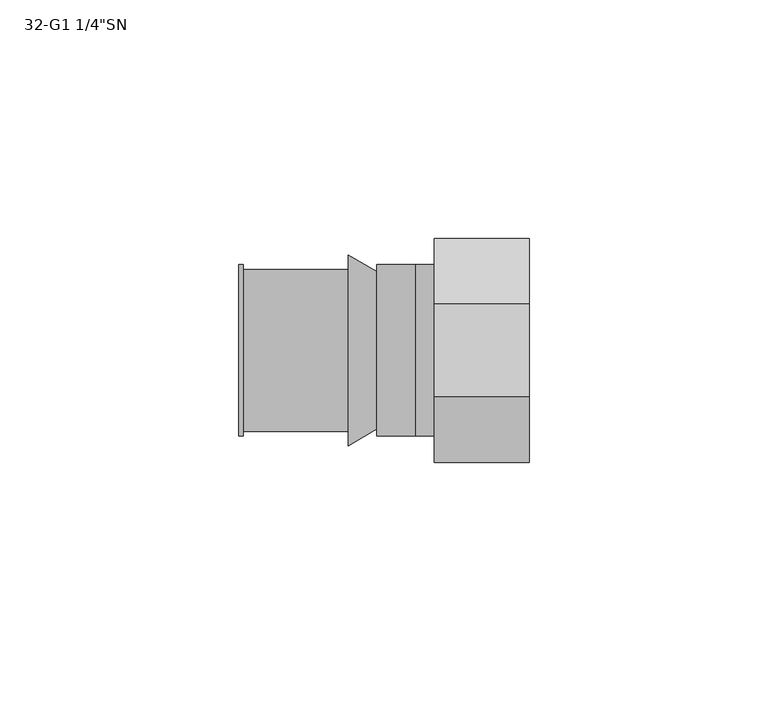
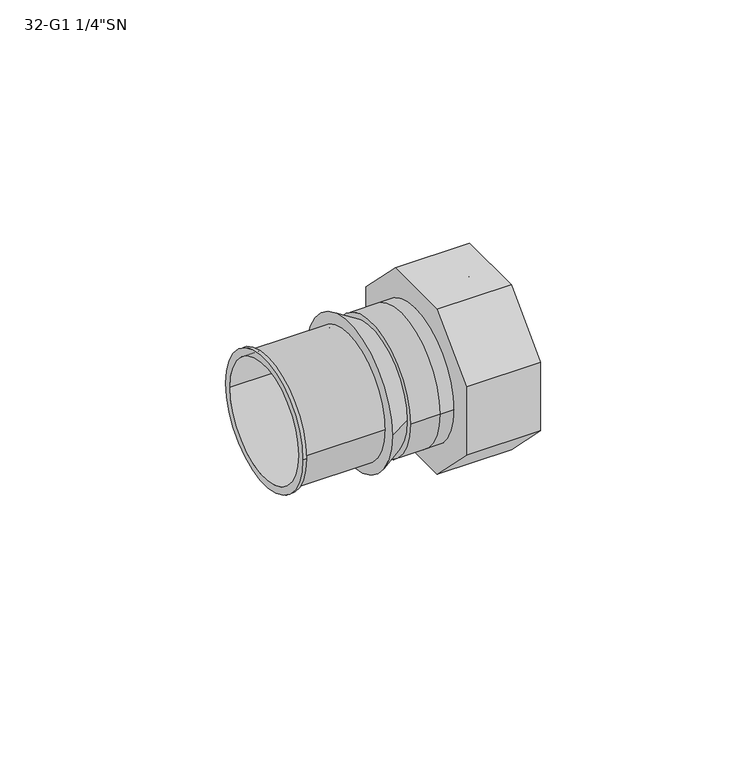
"""IFC4 building model written with IfcOpenShell, lengths in millimetres: pipe fitting geometry."""

from ifc_helpers import new_model, si_unit, frame, origin, place, context, project, spatial, polyline, circle_curve, source, transform, mapped, element, save
from ifc_brep_helpers import plane_surface, cylinder_surface, revolved_surface, advanced_brep


def pipe_fitting_c0130a99(model_context):
    return source(origin(), model_context, "Body", "AdvancedBrep", [
        advanced_brep(
        [(-4.0, -16.5, 0.0), (-4.0, 16.5, 0.0), (-4.0, -16.0, 0.0), (-4.0, 16.0, 0.0), (-10.0, -20.0, 0.0), (-10.0, 20.0, 0.0), (-10.0, 16.0, 0.0), (-10.0, -16.0, 0.0)],
        [
            (0, 1, circle_curve(frame((-4.0, 0.0, 0.0), z_axis=(1.0, 0.0, 0.0), x_axis=(0.0, -1.0, 0.0)), 16.5)),
            (1, 0, circle_curve(frame((-4.0, 0.0, 0.0), z_axis=(1.0, 0.0, 0.0), x_axis=(0.0, 1.0, 0.0)), 16.5)),
            (2, 3, circle_curve(frame((-4.0, 0.0, 0.0), z_axis=(-1.0, 0.0, 0.0), x_axis=(0.0, 1.0, 0.0)), 16.0)),
            (3, 2, circle_curve(frame((-4.0, 0.0, 0.0), z_axis=(-1.0, 0.0, 0.0), x_axis=(0.0, 1.0, 0.0)), 16.0)),
            (4, 5, circle_curve(frame((-10.0, 0.0, 0.0), z_axis=(-1.0, 0.0, 0.0), x_axis=(0.0, 1.0, 0.0)), 20.0)),
            (5, 4, circle_curve(frame((-10.0, 0.0, 0.0), z_axis=(-1.0, 0.0, 0.0), x_axis=(0.0, -1.0, 0.0)), 20.0)),
            (6, 7, circle_curve(frame((-10.0, 0.0, 0.0), z_axis=(1.0, 0.0, 0.0), x_axis=(0.0, 1.0, 0.0)), 16.0)),
            (7, 6, circle_curve(frame((-10.0, 0.0, 0.0), z_axis=(1.0, 0.0, 0.0), x_axis=(0.0, 1.0, 0.0)), 16.0)),
            (0, 4),
            (5, 1),
            (6, 3),
            (2, 7),
        ],
        [
            plane_surface(frame((-4.0, 0.0, 0.0), z_axis=(1.0, 0.0, 0.0), x_axis=(0.0, 0.0, -1.0))),
            plane_surface(frame((-10.0, 0.0, 0.0), z_axis=(-1.0, 0.0, 0.0), x_axis=(0.0, 0.0, -1.0))),
            revolved_surface(polyline([(-4.0, -16.500000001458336, 0.0), (-9.999999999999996, -20.0, 0.0)]), (24.2857143, 0.0, 0.0), (-1.0, 0.0, 0.0)),
            revolved_surface(polyline([(-4.0, 16.500000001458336, 0.0), (-9.999999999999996, 20.0, 0.0)]), (24.2857143, 0.0, 0.0), (-1.0, 0.0, 0.0)),
            revolved_surface(polyline([(-10.0, 16.0, 0.0), (-4.0, 16.0, 0.0)]), (-10.0, 0.0, 0.0), (-1.0, 0.0, 0.0)),
        ],
        [
            (0, [[1, 2], [3, 4]]),
            (1, [[5, 6], [7, 8]]),
            (2, [[-1, 9, -6, 10]]),
            (3, [[-2, -10, -5, -9]]),
            (4, [[11, -3, 12, -7]]),
            (4, [[-11, -8, -12, -4]]),
        ],
    ),
        advanced_brep(
        [(17.0, -17.0, 0.0), (17.0, 17.0, 0.0), (28.0, 17.0, 0.0), (28.0, -17.0, 0.0), (8.0, -23.5, 9.7340187), (8.0, -9.7340187, 23.5), (8.0, 9.7340187, 23.5), (8.0, 23.5, 9.7340187), (8.0, 23.5, -9.7340187), (8.0, 9.7340187, -23.5), (8.0, -9.7340187, -23.5), (8.0, -23.5, -9.7340187), (28.0, -23.5, 9.7340187), (28.0, -23.5, -9.7340187), (28.0, -9.7340187, -23.5), (28.0, 9.7340187, -23.5), (28.0, 23.5, -9.7340187), (28.0, 23.5, 9.7340187), (28.0, 9.7340187, 23.5), (28.0, -9.7340187, 23.5)],
        [
            (0, 1, circle_curve(frame((17.0, 0.0, 0.0), z_axis=(1.0, 0.0, 0.0), x_axis=(0.0, 1.0, 0.0)), 17.0)),
            (1, 0, circle_curve(frame((17.0, 0.0, 0.0), z_axis=(1.0, 0.0, 0.0), x_axis=(0.0, 1.0, 0.0)), 17.0)),
            (1, 2),
            (2, 3, circle_curve(frame((28.0, 0.0, 0.0), z_axis=(1.0, 0.0, 0.0), x_axis=(0.0, 1.0, 0.0)), 17.0)),
            (3, 0),
            (3, 2, circle_curve(frame((28.0, 0.0, 0.0), z_axis=(1.0, 0.0, 0.0), x_axis=(0.0, 1.0, 0.0)), 17.0)),
            (4, 5),
            (5, 6),
            (6, 7),
            (7, 8),
            (8, 9),
            (9, 10),
            (10, 11),
            (11, 4),
            (12, 13),
            (13, 14),
            (14, 15),
            (15, 16),
            (16, 17),
            (17, 18),
            (18, 19),
            (19, 12),
            (4, 12),
            (19, 5),
            (18, 6),
            (17, 7),
            (16, 8),
            (15, 9),
            (14, 10),
            (13, 11),
        ],
        [
            plane_surface(frame((17.0, 0.0, 0.0), z_axis=(1.0, 0.0, 0.0), x_axis=(0.0, 0.0, 1.0))),
            revolved_surface(polyline([(17.0, 17.0, 0.0), (28.0, 17.0, 0.0)]), (17.0, 0.0, 0.0), (-1.0, 0.0, 0.0)),
            plane_surface(frame((8.0, 0.0, 0.0), z_axis=(-1.0, 0.0, 0.0), x_axis=(0.0, 0.0, 1.0))),
            plane_surface(frame((28.0, 0.0, 0.0), z_axis=(1.0, 0.0, 0.0), x_axis=(0.0, 0.0, 1.0))),
            plane_surface(frame((8.0, -23.5, 9.7340187), z_axis=(0.0, -0.7071067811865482, 0.7071067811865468), x_axis=(1.0, 0.0, 0.0))),
            plane_surface(frame((8.0, -9.7340187, 23.5), z_axis=(0.0, 0.0, 1.0), x_axis=(1.0, 0.0, 0.0))),
            plane_surface(frame((8.0, 9.7340187, 23.5), z_axis=(0.0, 0.7071067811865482, 0.7071067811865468), x_axis=(1.0, 0.0, 0.0))),
            plane_surface(frame((8.0, 23.5, 9.7340187), z_axis=(0.0, 1.0, 0.0), x_axis=(1.0, 0.0, 0.0))),
            plane_surface(frame((8.0, 23.5, -9.7340187), z_axis=(0.0, 0.7071067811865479, -0.7071067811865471), x_axis=(1.0, 0.0, 0.0))),
            plane_surface(frame((8.0, 9.7340187, -23.5), z_axis=(0.0, 0.0, -1.0), x_axis=(1.0, 0.0, 0.0))),
            plane_surface(frame((8.0, -9.7340187, -23.5), z_axis=(0.0, -0.7071067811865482, -0.7071067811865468), x_axis=(1.0, 0.0, 0.0))),
            plane_surface(frame((8.0, -23.5, -9.7340187), z_axis=(0.0, -1.0, 0.0), x_axis=(1.0, 0.0, 0.0))),
        ],
        [
            (0, [[1, 2]]),
            (1, [[-2, 3, 4, 5]]),
            (1, [[-1, -5, 6, -3]]),
            (2, [[7, 8, 9, 10, 11, 12, 13, 14]]),
            (3, [[15, 16, 17, 18, 19, 20, 21, 22], [-4, -6]]),
            (4, [[-7, 23, -22, 24]]),
            (5, [[-8, -24, -21, 25]]),
            (6, [[-9, -25, -20, 26]]),
            (7, [[-10, -26, -19, 27]]),
            (8, [[-11, -27, -18, 28]]),
            (9, [[-12, -28, -17, 29]]),
            (10, [[-13, -29, -16, 30]]),
            (11, [[-14, -30, -15, -23]]),
        ],
    ),
        advanced_brep(
        [(-4.0, -18.0, 0.0), (-4.0, 18.0, 0.0), (4.0, 18.0, 0.0), (4.0, -18.0, 0.0), (8.0, -18.0, 0.0), (8.0, 18.0, 0.0)],
        [
            (0, 1, circle_curve(frame((-4.0, 0.0, 0.0), z_axis=(-1.0, 0.0, 0.0), x_axis=(0.0, 1.0, 0.0)), 18.0)),
            (1, 0, circle_curve(frame((-4.0, 0.0, 0.0), z_axis=(-1.0, 0.0, 0.0), x_axis=(0.0, 1.0, 0.0)), 18.0)),
            (1, 2),
            (2, 3, circle_curve(frame((4.0, 0.0, 0.0), z_axis=(-1.0, 0.0, 0.0), x_axis=(0.0, 1.0, 0.0)), 18.0)),
            (3, 0),
            (3, 2, circle_curve(frame((4.0, 0.0, 0.0), z_axis=(-1.0, 0.0, 0.0), x_axis=(0.0, 1.0, 0.0)), 18.0)),
            (4, 5, circle_curve(frame((8.0, 0.0, 0.0), z_axis=(1.0, 0.0, 0.0), x_axis=(0.0, 1.0, 0.0)), 18.0)),
            (5, 4, circle_curve(frame((8.0, 0.0, 0.0), z_axis=(1.0, 0.0, 0.0), x_axis=(0.0, 1.0, 0.0)), 18.0)),
            (5, 2),
            (3, 4),
        ],
        [
            plane_surface(frame((-4.0, 0.0, 0.0), z_axis=(-1.0, 0.0, 0.0), x_axis=(0.0, 0.0, 1.0))),
            cylinder_surface(frame((-4.0, 0.0, 0.0), z_axis=(-1.0, 0.0, 0.0), x_axis=(0.0, 1.0, 0.0)), 18.0),
            plane_surface(frame((8.0, 0.0, 0.0), z_axis=(1.0, 0.0, 0.0), x_axis=(0.0, 0.0, 1.0))),
            cylinder_surface(frame((4.0, 0.0, 0.0), z_axis=(-1.0, 0.0, 0.0), x_axis=(0.0, 1.0, 0.0)), 18.0),
        ],
        [
            (0, [[1, 2]]),
            (1, [[-2, 3, 4, 5]]),
            (1, [[-1, -5, 6, -3]]),
            (2, [[7, 8]]),
            (3, [[-8, 9, -6, 10]]),
            (3, [[-7, -10, -4, -9]]),
        ],
    ),
        advanced_brep(
        [(-33.0, -18.0, 0.0), (-33.0, 18.0, 0.0), (-33.0, -16.0, 0.0), (-33.0, 16.0, 0.0), (-10.0, -17.0, 0.0), (-10.0, 17.0, 0.0), (-10.0, -16.0, 0.0), (-10.0, 16.0, 0.0), (-32.0, 17.0, 0.0), (-32.0, -17.0, 0.0), (-32.0, -16.0, 0.0), (-32.0, 16.0, 0.0), (-32.0, -18.0, 0.0), (-32.0, 18.0, 0.0)],
        [
            (0, 1, circle_curve(frame((-33.0, 0.0, 0.0), z_axis=(-1.0, 0.0, 0.0), x_axis=(0.0, 1.0, 0.0)), 18.0)),
            (1, 0, circle_curve(frame((-33.0, 0.0, 0.0), z_axis=(-1.0, 0.0, 0.0), x_axis=(0.0, 1.0, 0.0)), 18.0)),
            (2, 3, circle_curve(frame((-33.0, 0.0, 0.0), z_axis=(1.0, 0.0, 0.0), x_axis=(0.0, 1.0, 0.0)), 16.0)),
            (3, 2, circle_curve(frame((-33.0, 0.0, 0.0), z_axis=(1.0, 0.0, 0.0), x_axis=(0.0, 1.0, 0.0)), 16.0)),
            (4, 5, circle_curve(frame((-10.0, 0.0, 0.0), z_axis=(1.0, 0.0, 0.0), x_axis=(0.0, 1.0, 0.0)), 17.0)),
            (5, 4, circle_curve(frame((-10.0, 0.0, 0.0), z_axis=(1.0, 0.0, 0.0), x_axis=(0.0, 1.0, 0.0)), 17.0)),
            (6, 7, circle_curve(frame((-10.0, 0.0, 0.0), z_axis=(-1.0, 0.0, 0.0), x_axis=(0.0, 1.0, 0.0)), 16.0)),
            (7, 6, circle_curve(frame((-10.0, 0.0, 0.0), z_axis=(-1.0, 0.0, 0.0), x_axis=(0.0, 1.0, 0.0)), 16.0)),
            (5, 8),
            (8, 9, circle_curve(frame((-32.0, 0.0, 0.0), z_axis=(1.0, 0.0, 0.0), x_axis=(0.0, 1.0, 0.0)), 17.0)),
            (9, 4),
            (9, 8, circle_curve(frame((-32.0, 0.0, 0.0), z_axis=(1.0, 0.0, 0.0), x_axis=(0.0, 1.0, 0.0)), 17.0)),
            (2, 10),
            (10, 6),
            (7, 11),
            (11, 3),
            (12, 13, circle_curve(frame((-32.0, 0.0, 0.0), z_axis=(1.0, 0.0, 0.0), x_axis=(0.0, 1.0, 0.0)), 18.0)),
            (13, 12, circle_curve(frame((-32.0, 0.0, 0.0), z_axis=(1.0, 0.0, 0.0), x_axis=(0.0, 1.0, 0.0)), 18.0)),
            (0, 12),
            (13, 1),
        ],
        [
            plane_surface(frame((-33.0, 0.0, 0.0), z_axis=(-1.0, 0.0, 0.0), x_axis=(0.0, 0.0, 1.0))),
            plane_surface(frame((-10.0, 0.0, 0.0), z_axis=(1.0, 0.0, 0.0), x_axis=(0.0, 0.0, 1.0))),
            cylinder_surface(frame((-33.0, 0.0, 0.0), z_axis=(-1.0, 0.0, 0.0), x_axis=(0.0, 1.0, 0.0)), 17.0),
            revolved_surface(polyline([(-10.0, 16.0, 0.0), (-33.0, 16.0, 0.0)]), (-33.0, 0.0, 0.0), (1.0, 0.0, 0.0)),
            plane_surface(frame((-32.0, 0.0, 0.0), z_axis=(1.0, 0.0, 0.0), x_axis=(0.0, 0.0, 1.0))),
            cylinder_surface(frame((-33.0, 0.0, 0.0), z_axis=(-1.0, 0.0, 0.0), x_axis=(0.0, 1.0, 0.0)), 18.0),
        ],
        [
            (0, [[1, 2], [3, 4]]),
            (1, [[5, 6], [7, 8]]),
            (2, [[-6, 9, 10, 11]]),
            (2, [[-5, -11, 12, -9]]),
            (3, [[-3, 13, 14, -8, 15, 16]]),
            (3, [[-4, -16, -15, -7, -14, -13]]),
            (4, [[17, 18], [-10, -12]]),
            (5, [[-1, 19, -18, 20]]),
            (5, [[-2, -20, -17, -19]]),
        ],
    ),
    ])


if __name__ == "__main__":
    model = new_model("IFC4")
    model_context = context("Model", 3, world=origin())
    ifc_project = project(units=[si_unit("LENGTHUNIT", "METRE", prefix="MILLI")], contexts=[model_context])
    site = spatial("IfcSite", under=ifc_project)
    building = spatial("IfcBuilding", under=site)
    placement = place(None, origin())
    pipe_fitting_shape = pipe_fitting_c0130a99(model_context)
    element("IfcPipeFitting", 1, ObjectType="SuperPipe_AdapterSN_MAX_G : 32-G1 1/4\"SN", at=placement, inside=building, context=model_context, shape_type="MappedRepresentation", body=[
        mapped(pipe_fitting_shape, transform((0.0, 0.0, 0.0), x_axis=(1.0, 0.0, 0.0), y_axis=(0.0, 1.0, 0.0), z_axis=(0.0, 0.0, 1.0))),
    ])
    save(model, "model.ifc")
